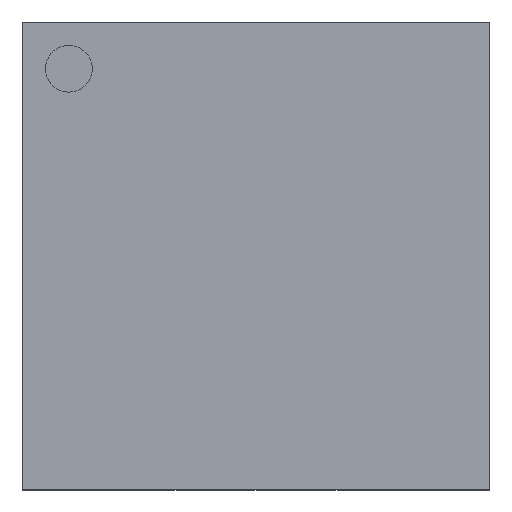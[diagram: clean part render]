
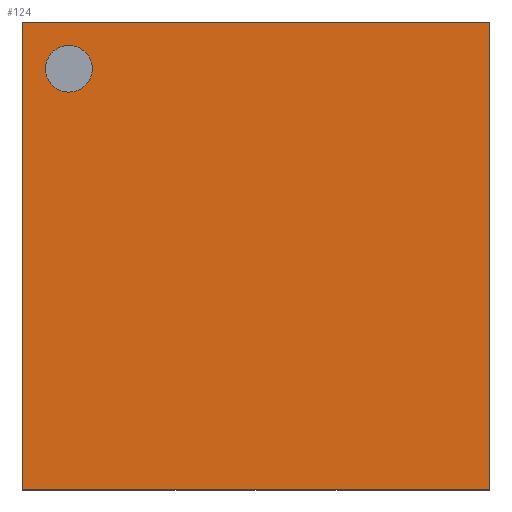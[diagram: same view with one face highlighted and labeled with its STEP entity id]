
A CAD part, top view. The second image highlights one B-rep face of the part: STEP entity #124.
In plain terms, the highlighted planar face has unit normal (0, 0, 1).
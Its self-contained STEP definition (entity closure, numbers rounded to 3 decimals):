
#13=DIRECTION('',(0.,0.,1.));
#20=ORIENTED_EDGE('',*,*,#21,.F.);
#21=EDGE_CURVE('',#22,#24,#26,.T.);
#22=VERTEX_POINT('',#23);
#23=CARTESIAN_POINT('',(-1.5,-1.5,0.8));
#24=VERTEX_POINT('',#25);
#25=CARTESIAN_POINT('',(-1.5,1.5,0.8));
#26=LINE('',#23,#27);
#27=VECTOR('',#28,1.);
#28=DIRECTION('',(0.,1.,0.));
#123=DIRECTION('',(1.,0.,0.));
#124=ADVANCED_FACE('',(#125,#141),#150,.T.);
#125=FACE_BOUND('',#126,.T.);
#126=EDGE_LOOP('',(#20,#127,#133,#138));
#127=ORIENTED_EDGE('',*,*,#128,.T.);
#128=EDGE_CURVE('',#22,#129,#131,.T.);
#129=VERTEX_POINT('',#130);
#130=CARTESIAN_POINT('',(1.5,-1.5,0.8));
#131=LINE('',#23,#132);
#132=VECTOR('',#123,1.);
#133=ORIENTED_EDGE('',*,*,#134,.T.);
#134=EDGE_CURVE('',#129,#135,#137,.T.);
#135=VERTEX_POINT('',#136);
#136=CARTESIAN_POINT('',(1.5,1.5,0.8));
#137=LINE('',#130,#27);
#138=ORIENTED_EDGE('',*,*,#139,.F.);
#139=EDGE_CURVE('',#24,#135,#140,.T.);
#140=LINE('',#25,#132);
#141=FACE_BOUND('',#142,.T.);
#142=EDGE_LOOP('',(#143));
#143=ORIENTED_EDGE('',*,*,#144,.F.);
#144=EDGE_CURVE('',#145,#145,#147,.T.);
#145=VERTEX_POINT('',#146);
#146=CARTESIAN_POINT('',(-1.05,1.2,0.8));
#147=CIRCLE('',#148,0.15);
#148=AXIS2_PLACEMENT_3D('',#149,#13,#123);
#149=CARTESIAN_POINT('',(-1.2,1.2,0.8));
#150=PLANE('',#151);
#151=AXIS2_PLACEMENT_3D('',#23,#13,#123);
